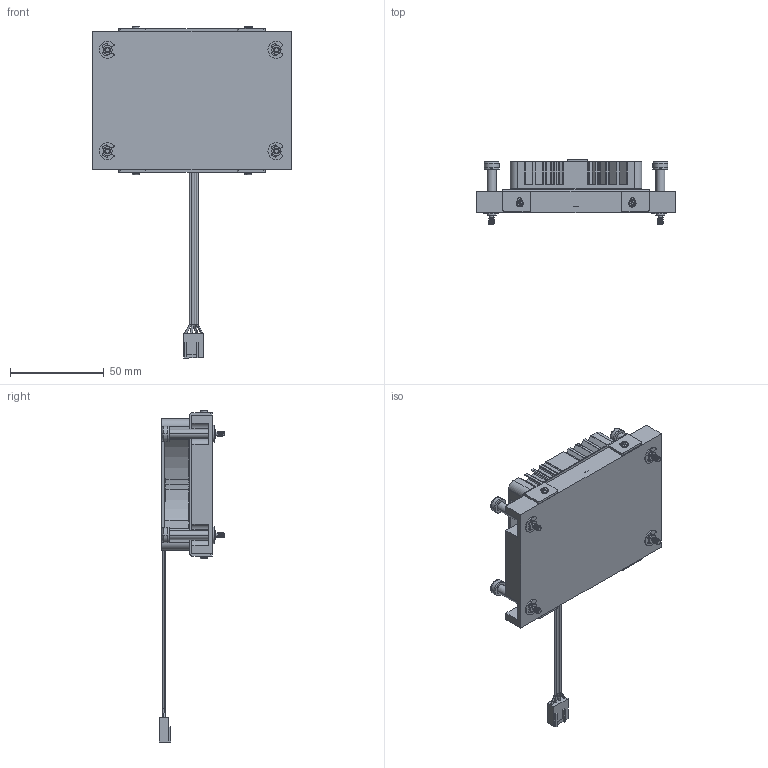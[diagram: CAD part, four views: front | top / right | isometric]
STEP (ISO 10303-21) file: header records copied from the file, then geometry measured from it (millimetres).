
FILE_DESCRIPTION((''),'2;1');
FILE_NAME('RGM3120_ASM','2022-12-20T',('User'),(''),'PRO/ENGINEER BY PARAMETRIC TECHNOLOGY CORPORATION, 2017170','PRO/ENGINEER BY PARAMETRIC TECHNOLOGY CORPORATION, 2017170','');
FILE_SCHEMA(('CONFIG_CONTROL_DESIGN'));
Products named in the file (25): __2-30423; __1-165871; __3-212357; SCREW_ASM_ASM; HS; 5MM_SELF_TAPPING_SCREW; M2_TAP_SCREW; __2-117; __1-370; __4-7216; __3-119101; BLOWER_ASSEMBLY_ASM; __1-32944; __-__1; 7015_AL_BLOWER_ASM; LABEL_RGE-ST002-1; 2543-BEIGE_HOUSING_4P_; __1; __2; __3; __4; 2543-___4P__ASM; 2543-BEIGE____ASM_4P__ASM; 2543-BEIGE_ASM_4P__ASM; RGM3120_ASM
Assembly tree (30 placements, depth 5):
  RGM3120_ASM
    SCREW_ASM_ASM  x4
      __2-30423
      __1-165871
      __3-212357
    HS
    5MM_SELF_TAPPING_SCREW  x4
    M2_TAP_SCREW
    BLOWER_ASSEMBLY_ASM
      __2-117
      __1-370
      __4-7216
      __3-119101
    7015_AL_BLOWER_ASM
      __1-32944
      __-__1
    LABEL_RGE-ST002-1
    2543-BEIGE_ASM_4P__ASM
      2543-BEIGE____ASM_4P__ASM
        2543-BEIGE_HOUSING_4P_
        2543-___4P__ASM
          __1
          __2
          __3
          __4
Bounding box: 106 x 34.85 x 177 mm (x, y, z)
Volume: 108272.8 mm3; surface area: 61326.3 mm2
Topology: 30 solids, 30 shells, 1624 faces, 4552 edges, 3082 vertices
Faces by surface type: plane 794, cylinder 620, extrusion 95, bspline 49, torus 35, cone 31
Entity records: 66437 total; most frequent: CARTESIAN_POINT 29504, ORIENTED_EDGE 7016, DIRECTION 6416, EDGE_CURVE 3508, VERTEX_POINT 2368, VECTOR 2260, LINE 2165, AXIS2_PLACEMENT_3D 2078
